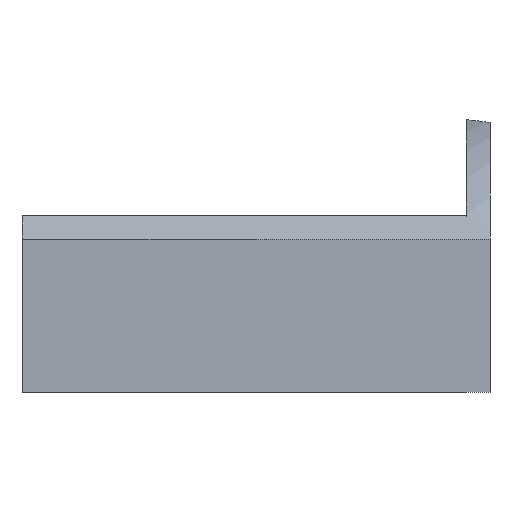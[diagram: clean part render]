
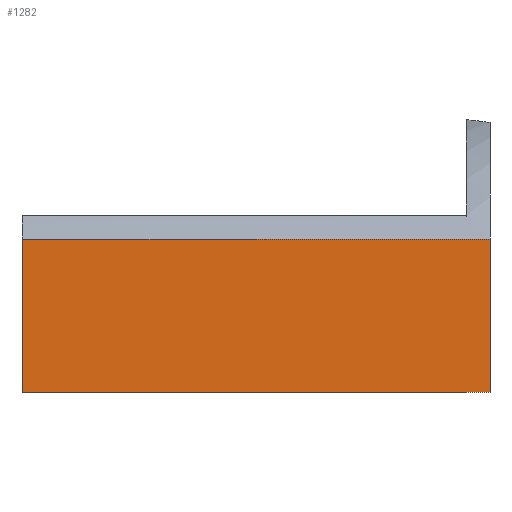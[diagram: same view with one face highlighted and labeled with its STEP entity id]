
A CAD part, front view. The second image highlights one B-rep face of the part: STEP entity #1282.
In plain terms, the highlighted planar face has unit normal (0, -1, 0).
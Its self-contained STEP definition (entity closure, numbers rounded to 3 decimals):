
#21 = EDGE_CURVE('',#22,#24,#26,.T.);
#22 = VERTEX_POINT('',#23);
#23 = CARTESIAN_POINT('',(160.7,-14.,4.9));
#24 = VERTEX_POINT('',#25);
#25 = CARTESIAN_POINT('',(160.7,-14.,12.697));
#26 = SURFACE_CURVE('',#27,(#31,#43),.PCURVE_S1.);
#27 = LINE('',#28,#29);
#28 = CARTESIAN_POINT('',(160.7,-14.,4.9));
#29 = VECTOR('',#30,1.);
#30 = DIRECTION('',(0.,0.,1.));
#31 = PCURVE('',#32,#37);
#32 = PLANE('',#33);
#33 = AXIS2_PLACEMENT_3D('',#34,#35,#36);
#34 = CARTESIAN_POINT('',(160.7,-14.,4.9));
#35 = DIRECTION('',(1.,0.,-0.));
#36 = DIRECTION('',(0.,0.,1.));
#37 = DEFINITIONAL_REPRESENTATION('',(#38),#42);
#38 = LINE('',#39,#40);
#39 = CARTESIAN_POINT('',(0.,0.));
#40 = VECTOR('',#41,1.);
#41 = DIRECTION('',(1.,0.));
#42 = ( GEOMETRIC_REPRESENTATION_CONTEXT(2) 
PARAMETRIC_REPRESENTATION_CONTEXT() REPRESENTATION_CONTEXT('2D SPACE',''
  ) );
#43 = PCURVE('',#44,#49);
#44 = PLANE('',#45);
#45 = AXIS2_PLACEMENT_3D('',#46,#47,#48);
#46 = CARTESIAN_POINT('',(160.7,-14.,4.9));
#47 = DIRECTION('',(-0.,1.,0.));
#48 = DIRECTION('',(0.,0.,1.));
#49 = DEFINITIONAL_REPRESENTATION('',(#50),#54);
#50 = LINE('',#51,#52);
#51 = CARTESIAN_POINT('',(0.,0.));
#52 = VECTOR('',#53,1.);
#53 = DIRECTION('',(1.,0.));
#54 = ( GEOMETRIC_REPRESENTATION_CONTEXT(2) 
PARAMETRIC_REPRESENTATION_CONTEXT() REPRESENTATION_CONTEXT('2D SPACE',''
  ) );
#72 = PLANE('',#73);
#73 = AXIS2_PLACEMENT_3D('',#74,#75,#76);
#74 = CARTESIAN_POINT('',(160.7,-14.,4.9));
#75 = DIRECTION('',(0.,0.,1.));
#76 = DIRECTION('',(1.,0.,-0.));
#187 = CYLINDRICAL_SURFACE('',#188,18.9);
#188 = AXIS2_PLACEMENT_3D('',#189,#190,#191);
#189 = CARTESIAN_POINT('',(140.5,0.,0.));
#190 = DIRECTION('',(1.,0.,0.));
#191 = DIRECTION('',(-0.,0.,1.));
#285 = EDGE_CURVE('',#286,#24,#288,.T.);
#286 = VERTEX_POINT('',#287);
#287 = CARTESIAN_POINT('',(184.5,-14.,12.697));
#288 = SURFACE_CURVE('',#289,(#293,#300),.PCURVE_S1.);
#289 = LINE('',#290,#291);
#290 = CARTESIAN_POINT('',(184.5,-14.,12.697));
#291 = VECTOR('',#292,1.);
#292 = DIRECTION('',(-1.,0.,0.));
#293 = PCURVE('',#187,#294);
#294 = DEFINITIONAL_REPRESENTATION('',(#295),#299);
#295 = LINE('',#296,#297);
#296 = CARTESIAN_POINT('',(0.834,44.));
#297 = VECTOR('',#298,1.);
#298 = DIRECTION('',(-0.,-1.));
#299 = ( GEOMETRIC_REPRESENTATION_CONTEXT(2) 
PARAMETRIC_REPRESENTATION_CONTEXT() REPRESENTATION_CONTEXT('2D SPACE',''
  ) );
#300 = PCURVE('',#44,#301);
#301 = DEFINITIONAL_REPRESENTATION('',(#302),#306);
#302 = LINE('',#303,#304);
#303 = CARTESIAN_POINT('',(7.797,23.8));
#304 = VECTOR('',#305,1.);
#305 = DIRECTION('',(0.,-1.));
#306 = ( GEOMETRIC_REPRESENTATION_CONTEXT(2) 
PARAMETRIC_REPRESENTATION_CONTEXT() REPRESENTATION_CONTEXT('2D SPACE',''
  ) );
#323 = PLANE('',#324);
#324 = AXIS2_PLACEMENT_3D('',#325,#326,#327);
#325 = CARTESIAN_POINT('',(184.5,-14.,4.9));
#326 = DIRECTION('',(1.,0.,-0.));
#327 = DIRECTION('',(0.,0.,1.));
#343 = EDGE_CURVE('',#344,#286,#346,.T.);
#344 = VERTEX_POINT('',#345);
#345 = CARTESIAN_POINT('',(184.5,-14.,4.9));
#346 = SURFACE_CURVE('',#347,(#351,#358),.PCURVE_S1.);
#347 = LINE('',#348,#349);
#348 = CARTESIAN_POINT('',(184.5,-14.,4.9));
#349 = VECTOR('',#350,1.);
#350 = DIRECTION('',(0.,0.,1.));
#351 = PCURVE('',#323,#352);
#352 = DEFINITIONAL_REPRESENTATION('',(#353),#357);
#353 = LINE('',#354,#355);
#354 = CARTESIAN_POINT('',(0.,0.));
#355 = VECTOR('',#356,1.);
#356 = DIRECTION('',(1.,0.));
#357 = ( GEOMETRIC_REPRESENTATION_CONTEXT(2) 
PARAMETRIC_REPRESENTATION_CONTEXT() REPRESENTATION_CONTEXT('2D SPACE',''
  ) );
#358 = PCURVE('',#44,#359);
#359 = DEFINITIONAL_REPRESENTATION('',(#360),#364);
#360 = LINE('',#361,#362);
#361 = CARTESIAN_POINT('',(0.,23.8));
#362 = VECTOR('',#363,1.);
#363 = DIRECTION('',(1.,0.));
#364 = ( GEOMETRIC_REPRESENTATION_CONTEXT(2) 
PARAMETRIC_REPRESENTATION_CONTEXT() REPRESENTATION_CONTEXT('2D SPACE',''
  ) );
#1255 = EDGE_CURVE('',#22,#344,#1256,.T.);
#1256 = SURFACE_CURVE('',#1257,(#1261,#1268),.PCURVE_S1.);
#1257 = LINE('',#1258,#1259);
#1258 = CARTESIAN_POINT('',(160.7,-14.,4.9));
#1259 = VECTOR('',#1260,1.);
#1260 = DIRECTION('',(1.,0.,0.));
#1261 = PCURVE('',#72,#1262);
#1262 = DEFINITIONAL_REPRESENTATION('',(#1263),#1267);
#1263 = LINE('',#1264,#1265);
#1264 = CARTESIAN_POINT('',(0.,0.));
#1265 = VECTOR('',#1266,1.);
#1266 = DIRECTION('',(1.,0.));
#1267 = ( GEOMETRIC_REPRESENTATION_CONTEXT(2) 
PARAMETRIC_REPRESENTATION_CONTEXT() REPRESENTATION_CONTEXT('2D SPACE',''
  ) );
#1268 = PCURVE('',#44,#1269);
#1269 = DEFINITIONAL_REPRESENTATION('',(#1270),#1274);
#1270 = LINE('',#1271,#1272);
#1271 = CARTESIAN_POINT('',(0.,0.));
#1272 = VECTOR('',#1273,1.);
#1273 = DIRECTION('',(0.,1.));
#1274 = ( GEOMETRIC_REPRESENTATION_CONTEXT(2) 
PARAMETRIC_REPRESENTATION_CONTEXT() REPRESENTATION_CONTEXT('2D SPACE',''
  ) );
#1282 = ADVANCED_FACE('',(#1283),#44,.F.);
#1283 = FACE_BOUND('',#1284,.F.);
#1284 = EDGE_LOOP('',(#1285,#1286,#1287,#1288));
#1285 = ORIENTED_EDGE('',*,*,#1255,.F.);
#1286 = ORIENTED_EDGE('',*,*,#21,.T.);
#1287 = ORIENTED_EDGE('',*,*,#285,.F.);
#1288 = ORIENTED_EDGE('',*,*,#343,.F.);
